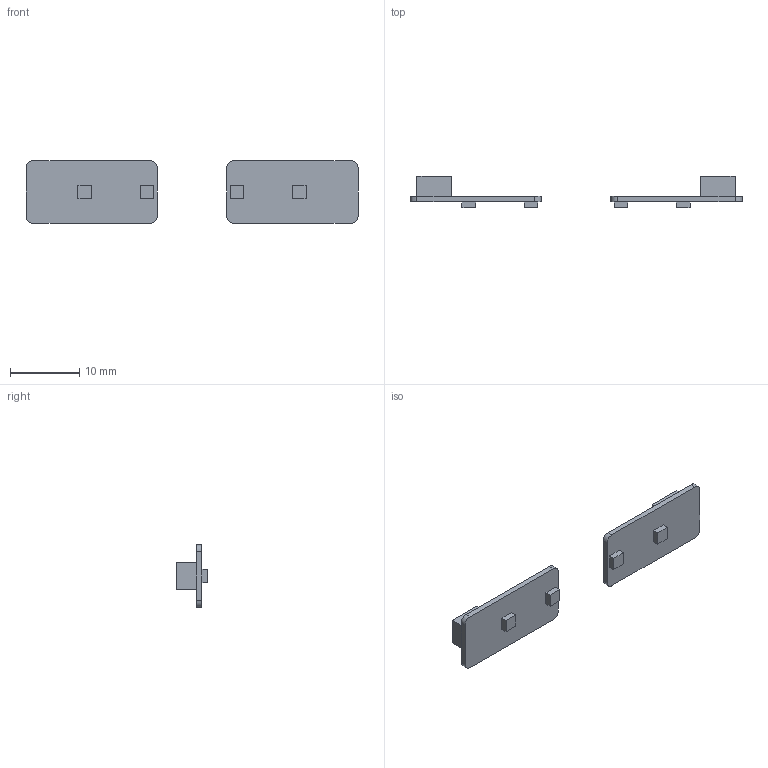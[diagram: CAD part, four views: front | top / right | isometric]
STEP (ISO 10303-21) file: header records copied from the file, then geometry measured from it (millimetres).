
FILE_DESCRIPTION(('Open CASCADE Model'),'2;1');
FILE_NAME('Open CASCADE Shape Model','2026-11-01T16:34:16',('Author'),( 'Open CASCADE'),'Open CASCADE STEP processor 8.0','build123d', 'Unknown');
FILE_SCHEMA(('AUTOMOTIVE_DESIGN { 1 0 10303 214 1 1 1 1 }'));
Length unit declared in the file: millimetre
Products named in the file (1): COMPOUND
Bounding box: 48 x 4.54 x 9 mm (x, y, z)
Volume: 401.7 mm3; surface area: 898.7 mm2
Topology: 2 solids, 2 shells, 50 faces, 120 edges, 80 vertices
Faces by surface type: plane 42, cylinder 8
Entity records: 2984 total; most frequent: CARTESIAN_POINT 587, DIRECTION 422, LINE 280, VECTOR 280, ORIENTED_EDGE 240, PCURVE 240, DEFINITIONAL_REPRESENTATION 240, EDGE_CURVE 120
